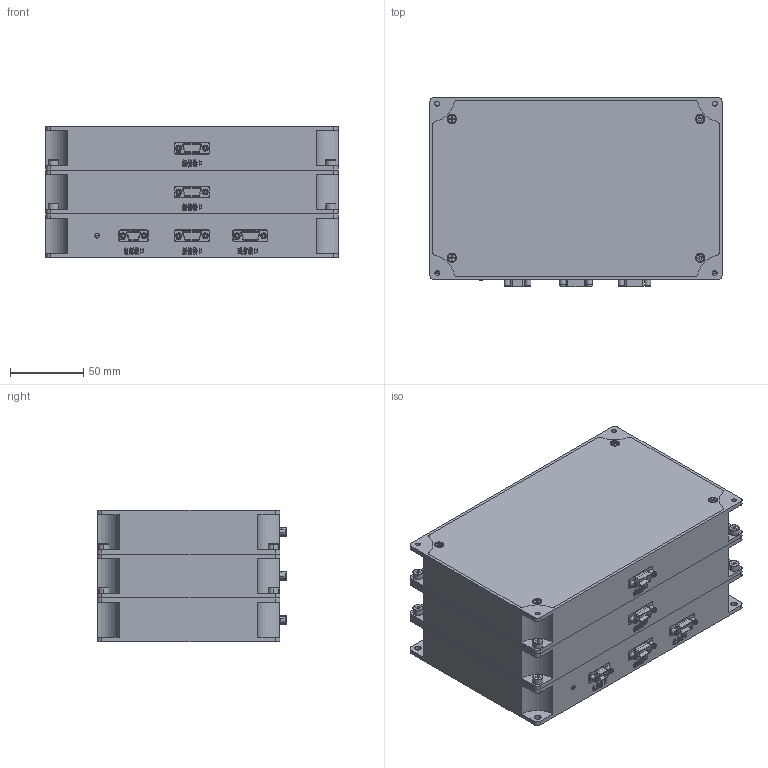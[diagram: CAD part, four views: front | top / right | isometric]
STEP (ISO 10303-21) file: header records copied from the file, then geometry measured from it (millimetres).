
FILE_DESCRIPTION (( 'STEP AP203' ), '1' );
FILE_NAME ('E80.D9S-K.STEP', '2025-07-16T03:25:59', ( 'China' ), ( 'Home' ), 'SwSTEP 2.0', 'SolidWorks 2016', '' );
FILE_SCHEMA (( 'CONFIG_CONTROL_DESIGN' ));
Products named in the file (1): E80.D9S-K
Bounding box: 200 x 129.8 x 90 mm (x, y, z)
Surface area: 118596.9 mm2 (no closed solid volume)
Topology: 0 solids, 117 shells, 714 faces, 7234 edges, 6638 vertices
Faces by surface type: plane 403, cylinder 257, cone 30, torus 16, bspline 6, sphere 2
Entity records: 78968 total; most frequent: CARTESIAN_POINT 32075, ORIENTED_EDGE 8499, DIRECTION 7624, EDGE_CURVE 7218, VERTEX_POINT 6636, VECTOR 4714, LINE 4714, B_SPLINE_CURVE_WITH_KNOTS 1758
